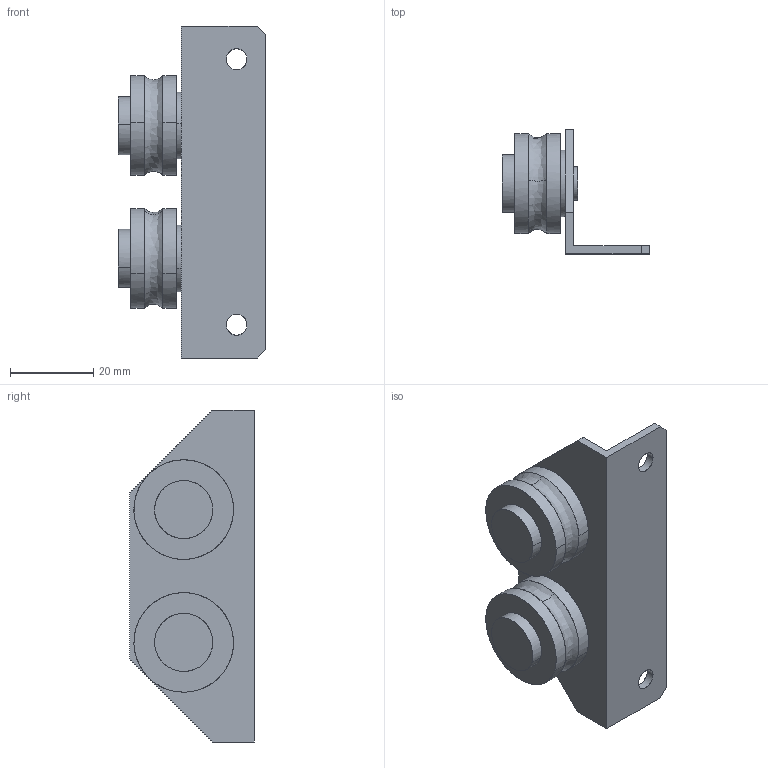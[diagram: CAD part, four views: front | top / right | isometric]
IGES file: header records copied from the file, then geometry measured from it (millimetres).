
Global section: file name: No Iges File Name specified; native system: AutoDesk Inventor R11.0; preprocessor: AutoDesk Inventor Iges Exporter R11.0; author: No Author specified; organization: No Organization specified; date: 20190511.110831; units: millimetre
Bounding box: 35.5 x 30 x 80 mm (x, y, z)
Surface area: 11313.7 mm2 (no closed solid volume)
Topology: 0 solids, 0 shells, 54 faces, 374 edges, 374 vertices
Faces by surface type: bspline 54
